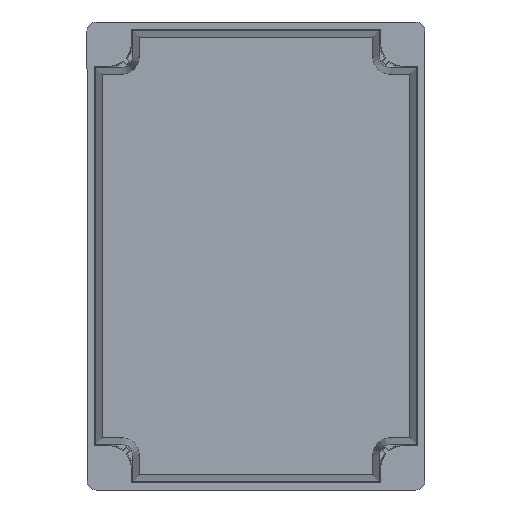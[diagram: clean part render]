
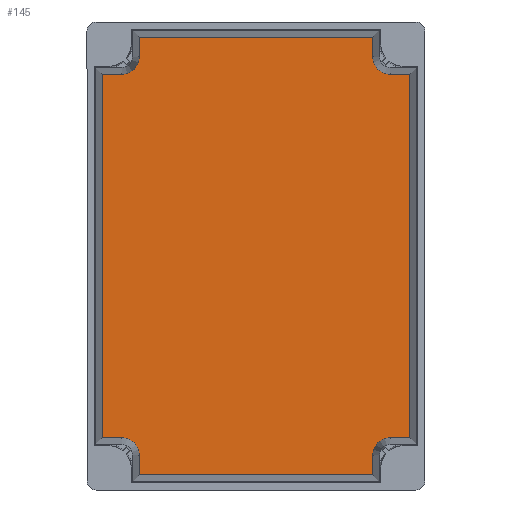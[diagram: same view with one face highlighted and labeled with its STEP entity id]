
A CAD part, front view. The second image highlights one B-rep face of the part: STEP entity #145.
In plain terms, the highlighted planar face has unit normal (0, -1, 0).
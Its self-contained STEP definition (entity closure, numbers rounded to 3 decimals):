
#145 = ADVANCED_FACE ( 'NONE', ( #6173 ), #6184, .F. ) ;
#146 = EDGE_LOOP ( 'NONE', ( #147, #224, #227, #192, #195, #198, #201, #204, #241, #244, #247, #250, #253, #228, #231, #234 ) ) ;
#147 = ORIENTED_EDGE ( 'NONE', *, *, #152, .T. ) ;
#152 = EDGE_CURVE ( 'NONE', #153, #223, #6192, .T. ) ;
#153 = VERTEX_POINT ( 'NONE', #6219 ) ;
#188 = EDGE_CURVE ( 'NONE', #226, #189, #6274, .T. ) ;
#189 = VERTEX_POINT ( 'NONE', #6309 ) ;
#192 = ORIENTED_EDGE ( 'NONE', *, *, #193, .T. ) ;
#193 = EDGE_CURVE ( 'NONE', #189, #194, #6277, .T. ) ;
#194 = VERTEX_POINT ( 'NONE', #6297 ) ;
#195 = ORIENTED_EDGE ( 'NONE', *, *, #196, .T. ) ;
#196 = EDGE_CURVE ( 'NONE', #194, #197, #6296, .T. ) ;
#197 = VERTEX_POINT ( 'NONE', #6303 ) ;
#198 = ORIENTED_EDGE ( 'NONE', *, *, #199, .T. ) ;
#199 = EDGE_CURVE ( 'NONE', #197, #200, #6302, .T. ) ;
#200 = VERTEX_POINT ( 'NONE', #6305 ) ;
#201 = ORIENTED_EDGE ( 'NONE', *, *, #202, .T. ) ;
#202 = EDGE_CURVE ( 'NONE', #200, #203, #6251, .T. ) ;
#203 = VERTEX_POINT ( 'NONE', #6252 ) ;
#204 = ORIENTED_EDGE ( 'NONE', *, *, #205, .T. ) ;
#205 = EDGE_CURVE ( 'NONE', #203, #240, #6256, .T. ) ;
#223 = VERTEX_POINT ( 'NONE', #6227 ) ;
#224 = ORIENTED_EDGE ( 'NONE', *, *, #225, .T. ) ;
#225 = EDGE_CURVE ( 'NONE', #223, #226, #6234, .T. ) ;
#226 = VERTEX_POINT ( 'NONE', #6285 ) ;
#227 = ORIENTED_EDGE ( 'NONE', *, *, #188, .T. ) ;
#228 = ORIENTED_EDGE ( 'NONE', *, *, #229, .T. ) ;
#229 = EDGE_CURVE ( 'NONE', #255, #230, #6289, .T. ) ;
#230 = VERTEX_POINT ( 'NONE', #6292 ) ;
#231 = ORIENTED_EDGE ( 'NONE', *, *, #232, .T. ) ;
#232 = EDGE_CURVE ( 'NONE', #230, #233, #6291, .T. ) ;
#233 = VERTEX_POINT ( 'NONE', #6293 ) ;
#234 = ORIENTED_EDGE ( 'NONE', *, *, #235, .T. ) ;
#235 = EDGE_CURVE ( 'NONE', #233, #153, #6316, .T. ) ;
#240 = VERTEX_POINT ( 'NONE', #6262 ) ;
#241 = ORIENTED_EDGE ( 'NONE', *, *, #242, .T. ) ;
#242 = EDGE_CURVE ( 'NONE', #240, #243, #6273, .T. ) ;
#243 = VERTEX_POINT ( 'NONE', #6345 ) ;
#244 = ORIENTED_EDGE ( 'NONE', *, *, #245, .T. ) ;
#245 = EDGE_CURVE ( 'NONE', #243, #246, #6351, .T. ) ;
#246 = VERTEX_POINT ( 'NONE', #6347 ) ;
#247 = ORIENTED_EDGE ( 'NONE', *, *, #248, .T. ) ;
#248 = EDGE_CURVE ( 'NONE', #246, #249, #6346, .T. ) ;
#249 = VERTEX_POINT ( 'NONE', #6341 ) ;
#250 = ORIENTED_EDGE ( 'NONE', *, *, #251, .T. ) ;
#251 = EDGE_CURVE ( 'NONE', #249, #252, #6340, .T. ) ;
#252 = VERTEX_POINT ( 'NONE', #6352 ) ;
#253 = ORIENTED_EDGE ( 'NONE', *, *, #254, .T. ) ;
#254 = EDGE_CURVE ( 'NONE', #252, #255, #6358, .T. ) ;
#255 = VERTEX_POINT ( 'NONE', #6360 ) ;
#6173 = FACE_OUTER_BOUND ( 'NONE', #146, .T. ) ;
#6180 = DIRECTION ( 'NONE',  ( 0., 0., 1. ) ) ;
#6181 = DIRECTION ( 'NONE',  ( 0., 1., 0. ) ) ;
#6182 = CARTESIAN_POINT ( 'NONE',  ( -56.75, 73.7, -81.75 ) ) ;
#6183 = AXIS2_PLACEMENT_3D ( 'NONE', #6182, #6181, #6180 ) ;
#6184 = PLANE ( 'NONE',  #6183 ) ;
#6192 = CIRCLE ( 'NONE', #6216, 6.704 ) ;
#6215 = CARTESIAN_POINT ( 'NONE',  ( 51.634, 73.7, 76.634 ) ) ;
#6216 = AXIS2_PLACEMENT_3D ( 'NONE', #6215, #6221, #6220 ) ;
#6219 = CARTESIAN_POINT ( 'NONE',  ( 51.634, 73.7, 69.93 ) ) ;
#6220 = DIRECTION ( 'NONE',  ( 0., 0., 1. ) ) ;
#6221 = DIRECTION ( 'NONE',  ( 0., 1., 0. ) ) ;
#6227 = CARTESIAN_POINT ( 'NONE',  ( 44.93, 73.7, 76.634 ) ) ;
#6231 = DIRECTION ( 'NONE',  ( 0., 0., 1. ) ) ;
#6232 = VECTOR ( 'NONE', #6231, 1000. ) ;
#6233 = CARTESIAN_POINT ( 'NONE',  ( 44.93, 73.7, 76.634 ) ) ;
#6234 = LINE ( 'NONE', #6233, #6232 ) ;
#6248 = DIRECTION ( 'NONE',  ( 0., 0., -1. ) ) ;
#6249 = VECTOR ( 'NONE', #6248, 1000. ) ;
#6250 = CARTESIAN_POINT ( 'NONE',  ( -59.18, 73.7, 72.529 ) ) ;
#6251 = LINE ( 'NONE', #6250, #6249 ) ;
#6252 = CARTESIAN_POINT ( 'NONE',  ( -59.18, 73.7, -69.93 ) ) ;
#6253 = DIRECTION ( 'NONE',  ( 1., 0., 0. ) ) ;
#6254 = VECTOR ( 'NONE', #6253, 1000. ) ;
#6255 = CARTESIAN_POINT ( 'NONE',  ( -61.779, 73.7, -69.93 ) ) ;
#6256 = LINE ( 'NONE', #6255, #6254 ) ;
#6262 = CARTESIAN_POINT ( 'NONE',  ( -51.634, 73.7, -69.93 ) ) ;
#6267 = CARTESIAN_POINT ( 'NONE',  ( -51.634, 73.7, -76.634 ) ) ;
#6270 = DIRECTION ( 'NONE',  ( 0., 0., 1. ) ) ;
#6271 = DIRECTION ( 'NONE',  ( 0., 1., 0. ) ) ;
#6272 = AXIS2_PLACEMENT_3D ( 'NONE', #6267, #6271, #6270 ) ;
#6273 = CIRCLE ( 'NONE', #6272, 6.704 ) ;
#6274 = LINE ( 'NONE', #6312, #6311 ) ;
#6275 = DIRECTION ( 'NONE',  ( 0., 0., -1. ) ) ;
#6276 = CARTESIAN_POINT ( 'NONE',  ( -44.93, 73.7, 76.634 ) ) ;
#6277 = LINE ( 'NONE', #6276, #6298 ) ;
#6285 = CARTESIAN_POINT ( 'NONE',  ( 44.93, 73.7, 84.18 ) ) ;
#6286 = DIRECTION ( 'NONE',  ( 1., 0., 0. ) ) ;
#6287 = VECTOR ( 'NONE', #6286, 1000. ) ;
#6288 = CARTESIAN_POINT ( 'NONE',  ( 61.779, 73.7, -69.93 ) ) ;
#6289 = LINE ( 'NONE', #6288, #6287 ) ;
#6290 = CARTESIAN_POINT ( 'NONE',  ( 59.18, 73.7, -72.529 ) ) ;
#6291 = LINE ( 'NONE', #6290, #6295 ) ;
#6292 = CARTESIAN_POINT ( 'NONE',  ( 59.18, 73.7, -69.93 ) ) ;
#6293 = CARTESIAN_POINT ( 'NONE',  ( 59.18, 73.7, 69.93 ) ) ;
#6294 = DIRECTION ( 'NONE',  ( 0., 0., 1. ) ) ;
#6295 = VECTOR ( 'NONE', #6294, 1000. ) ;
#6296 = CIRCLE ( 'NONE', #6301, 6.704 ) ;
#6297 = CARTESIAN_POINT ( 'NONE',  ( -44.93, 73.7, 76.634 ) ) ;
#6298 = VECTOR ( 'NONE', #6275, 1000. ) ;
#6299 = DIRECTION ( 'NONE',  ( 0., 1., 0. ) ) ;
#6300 = CARTESIAN_POINT ( 'NONE',  ( -51.634, 73.7, 76.634 ) ) ;
#6301 = AXIS2_PLACEMENT_3D ( 'NONE', #6300, #6299, #6304 ) ;
#6302 = LINE ( 'NONE', #6308, #6307 ) ;
#6303 = CARTESIAN_POINT ( 'NONE',  ( -51.634, 73.7, 69.93 ) ) ;
#6304 = DIRECTION ( 'NONE',  ( 0., 0., 1. ) ) ;
#6305 = CARTESIAN_POINT ( 'NONE',  ( -59.18, 73.7, 69.93 ) ) ;
#6306 = DIRECTION ( 'NONE',  ( -1., 0., 0. ) ) ;
#6307 = VECTOR ( 'NONE', #6306, 1000. ) ;
#6308 = CARTESIAN_POINT ( 'NONE',  ( -61.779, 73.7, 69.93 ) ) ;
#6309 = CARTESIAN_POINT ( 'NONE',  ( -44.93, 73.7, 84.18 ) ) ;
#6310 = DIRECTION ( 'NONE',  ( -1., 0., 0. ) ) ;
#6311 = VECTOR ( 'NONE', #6310, 1000. ) ;
#6312 = CARTESIAN_POINT ( 'NONE',  ( 47.529, 73.7, 84.18 ) ) ;
#6313 = DIRECTION ( 'NONE',  ( -1., 0., 0. ) ) ;
#6314 = VECTOR ( 'NONE', #6313, 1000. ) ;
#6315 = CARTESIAN_POINT ( 'NONE',  ( 61.779, 73.7, 69.93 ) ) ;
#6316 = LINE ( 'NONE', #6315, #6314 ) ;
#6338 = VECTOR ( 'NONE', #6353, 1000. ) ;
#6339 = CARTESIAN_POINT ( 'NONE',  ( 44.93, 73.7, -76.634 ) ) ;
#6340 = LINE ( 'NONE', #6339, #6338 ) ;
#6341 = CARTESIAN_POINT ( 'NONE',  ( 44.93, 73.7, -84.18 ) ) ;
#6342 = DIRECTION ( 'NONE',  ( 1., 0., 0. ) ) ;
#6343 = VECTOR ( 'NONE', #6342, 1000. ) ;
#6344 = CARTESIAN_POINT ( 'NONE',  ( -47.529, 73.7, -84.18 ) ) ;
#6345 = CARTESIAN_POINT ( 'NONE',  ( -44.93, 73.7, -76.634 ) ) ;
#6346 = LINE ( 'NONE', #6344, #6343 ) ;
#6347 = CARTESIAN_POINT ( 'NONE',  ( -44.93, 73.7, -84.18 ) ) ;
#6348 = DIRECTION ( 'NONE',  ( 0., 0., -1. ) ) ;
#6349 = VECTOR ( 'NONE', #6348, 1000. ) ;
#6350 = CARTESIAN_POINT ( 'NONE',  ( -44.93, 73.7, -76.634 ) ) ;
#6351 = LINE ( 'NONE', #6350, #6349 ) ;
#6352 = CARTESIAN_POINT ( 'NONE',  ( 44.93, 73.7, -76.634 ) ) ;
#6353 = DIRECTION ( 'NONE',  ( 0., 0., 1. ) ) ;
#6354 = DIRECTION ( 'NONE',  ( 0., 0., 1. ) ) ;
#6355 = DIRECTION ( 'NONE',  ( 0., 1., 0. ) ) ;
#6356 = CARTESIAN_POINT ( 'NONE',  ( 51.634, 73.7, -76.634 ) ) ;
#6357 = AXIS2_PLACEMENT_3D ( 'NONE', #6356, #6355, #6354 ) ;
#6358 = CIRCLE ( 'NONE', #6357, 6.704 ) ;
#6360 = CARTESIAN_POINT ( 'NONE',  ( 51.634, 73.7, -69.93 ) ) ;
